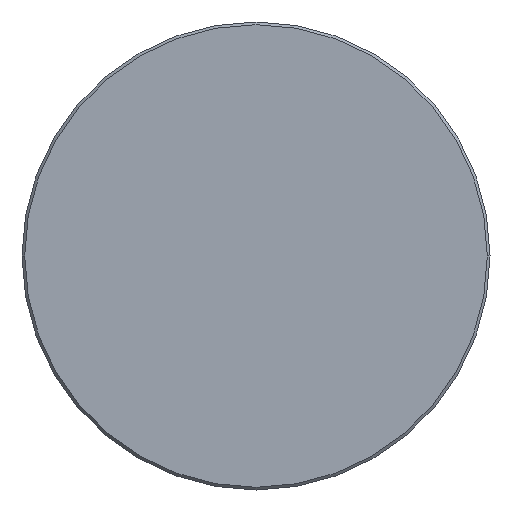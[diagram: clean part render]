
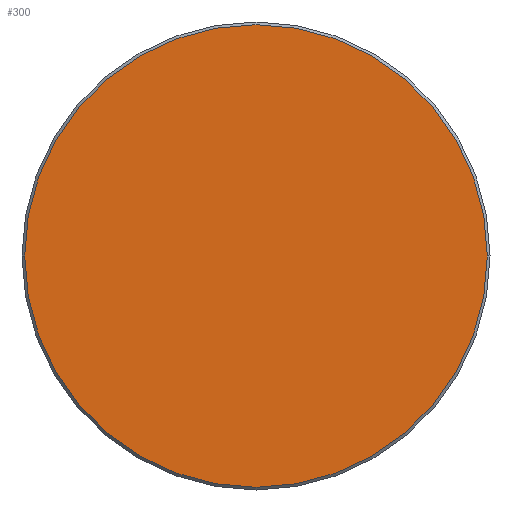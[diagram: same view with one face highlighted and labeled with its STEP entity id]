
A CAD part, left-side view. The second image highlights one B-rep face of the part: STEP entity #300.
In plain terms, the highlighted planar face has unit normal (-1, 0, 0).
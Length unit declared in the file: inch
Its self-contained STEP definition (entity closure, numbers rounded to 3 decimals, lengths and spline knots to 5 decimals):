
#27 = CIRCLE ( 'NONE', #284, 0.33975 ) ;
#44 = AXIS2_PLACEMENT_3D ( 'NONE', #296, #375, #351 ) ;
#60 = ORIENTED_EDGE ( 'NONE', *, *, #305, .T. ) ;
#77 = PLANE ( 'NONE',  #273 ) ;
#153 = DIRECTION ( 'NONE',  ( 0., -1., 0. ) ) ;
#156 = ORIENTED_EDGE ( 'NONE', *, *, #198, .T. ) ;
#166 = FACE_OUTER_BOUND ( 'NONE', #322, .T. ) ;
#198 = EDGE_CURVE ( 'NONE', #352, #271, #27, .T. ) ;
#202 = CARTESIAN_POINT ( 'NONE',  ( 0., 0.33975, 0. ) ) ;
#236 = DIRECTION ( 'NONE',  ( 0., -1., 0. ) ) ;
#244 = CIRCLE ( 'NONE', #44, 0.33975 ) ;
#271 = VERTEX_POINT ( 'NONE', #202 ) ;
#273 = AXIS2_PLACEMENT_3D ( 'NONE', #291, #371, #153 ) ;
#284 = AXIS2_PLACEMENT_3D ( 'NONE', #342, #341, #236 ) ;
#291 = CARTESIAN_POINT ( 'NONE',  ( 0., 0., 0. ) ) ;
#295 = CARTESIAN_POINT ( 'NONE',  ( 0., -0.33975, 0. ) ) ;
#296 = CARTESIAN_POINT ( 'NONE',  ( 0., 0., 0. ) ) ;
#300 = ADVANCED_FACE ( 'NONE', ( #166 ), #77, .T. ) ;
#305 = EDGE_CURVE ( 'NONE', #271, #352, #244, .T. ) ;
#322 = EDGE_LOOP ( 'NONE', ( #60, #156 ) ) ;
#341 = DIRECTION ( 'NONE',  ( -1., 0., 0. ) ) ;
#342 = CARTESIAN_POINT ( 'NONE',  ( 0., 0., 0. ) ) ;
#351 = DIRECTION ( 'NONE',  ( 0., -1., 0. ) ) ;
#352 = VERTEX_POINT ( 'NONE', #295 ) ;
#371 = DIRECTION ( 'NONE',  ( -1., 0., 0. ) ) ;
#375 = DIRECTION ( 'NONE',  ( -1., 0., 0. ) ) ;
